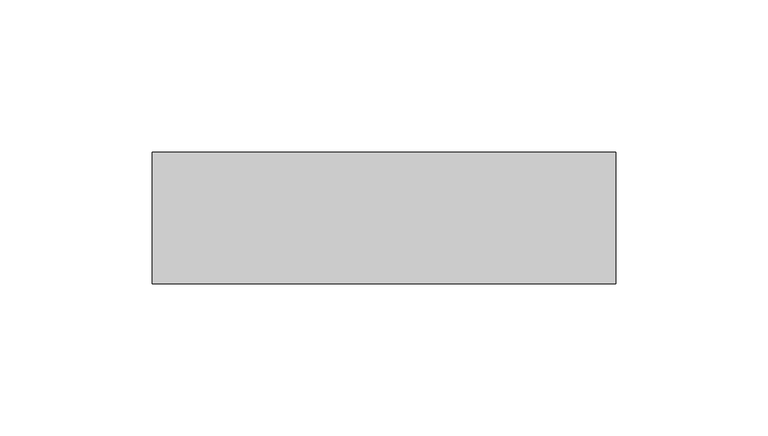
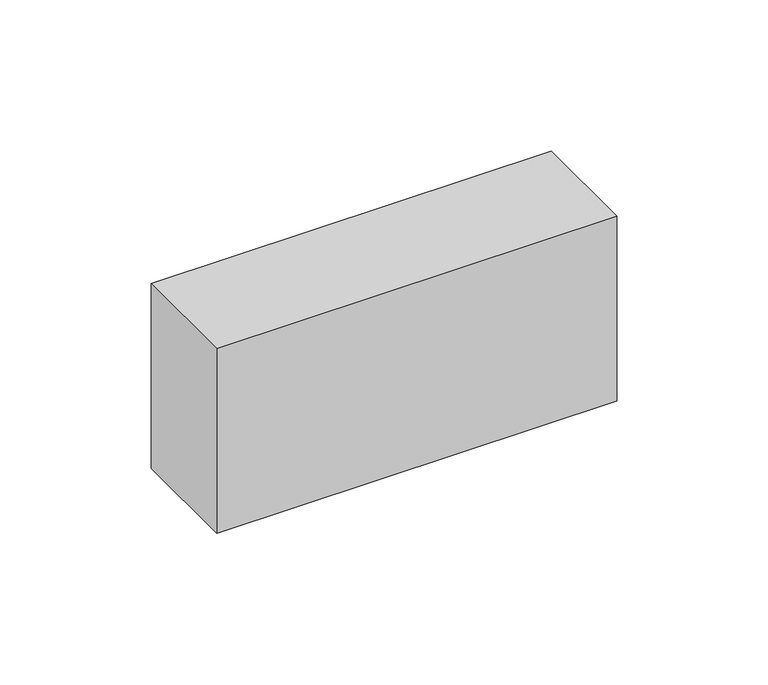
"""IFC4 building model written with IfcOpenShell, lengths in millimetres: proxy geometry, ASHLEY DUO UNDERMOUNT."""

from ifc_helpers import new_model, si_unit, frame, origin, place, context, project, spatial, polyline, outline, extrude, source, transform, mapped, element, save


def generic_models_b96f83d2(model_context):
    return source(origin(), model_context, "Body", "SweptSolid", [
        extrude(outline(polyline([(152.4, 43.18), (152.4, 0.0), (0.0, 0.0), (0.0, 43.18), (152.4, 43.18)])), frame((0.0, 0.0, -3.175), z_axis=(0.0, 0.0, 1.0), x_axis=(1.0, 0.0, 0.0)), (0.0, 0.0, 1.0), 74.549),
    ])


if __name__ == "__main__":
    model = new_model("IFC4")
    model_context = context("Model", 3, world=origin())
    ifc_project = project(units=[si_unit("LENGTHUNIT", "METRE", prefix="MILLI")], contexts=[model_context])
    site = spatial("IfcSite", under=ifc_project)
    building = spatial("IfcBuilding", under=site)
    placement = place(None, origin())
    generic_models_shape = generic_models_b96f83d2(model_context)
    element("IfcBuildingElementProxy", 1, Name="ASHLEY DUO UNDERMOUNT", ObjectType="ASHLEY DUO UNDERMOUNT", at=placement, inside=building, context=model_context, shape_type="MappedRepresentation", body=[
        mapped(generic_models_shape, transform((0.0, 0.0, 0.0), x_axis=(1.0, 0.0, 0.0), y_axis=(0.0, 1.0, 0.0), z_axis=(0.0, 0.0, 1.0))),
    ])
    save(model, "model.ifc")
